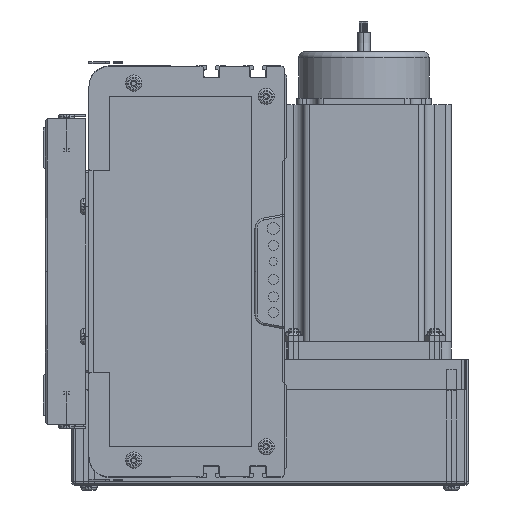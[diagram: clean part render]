
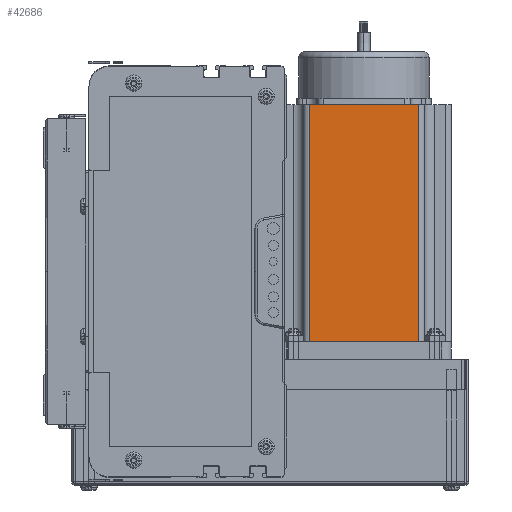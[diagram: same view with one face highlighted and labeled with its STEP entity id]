
A CAD part, left-side view. The second image highlights one B-rep face of the part: STEP entity #42686.
In plain terms, the highlighted planar face has unit normal (-1, 0, 0) as drawn and (0, -1, 0) by its records, which use the part's own axes.
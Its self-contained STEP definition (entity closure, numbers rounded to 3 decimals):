
#42644 = ORIENTED_EDGE ( 'NONE', *, *, #42688, .T. ) ;
#42647 = VERTEX_POINT ( 'NONE', #52527 ) ;
#42653 = VERTEX_POINT ( 'NONE', #52607 ) ;
#42686 = ADVANCED_FACE ( 'NONE', ( #52699 ), #52723, .F. ) ;
#42687 = EDGE_CURVE ( 'NONE', #42647, #42703, #52693, .T. ) ;
#42688 = EDGE_CURVE ( 'NONE', #42653, #42647, #52684, .T. ) ;
#42690 = ORIENTED_EDGE ( 'NONE', *, *, #42691, .F. ) ;
#42691 = EDGE_CURVE ( 'NONE', #42692, #42703, #52685, .T. ) ;
#42692 = VERTEX_POINT ( 'NONE', #52677 ) ;
#42694 = EDGE_CURVE ( 'NONE', #42692, #42653, #52771, .T. ) ;
#42703 = VERTEX_POINT ( 'NONE', #52860 ) ;
#42709 = ORIENTED_EDGE ( 'NONE', *, *, #42687, .T. ) ;
#42713 = ORIENTED_EDGE ( 'NONE', *, *, #42694, .T. ) ;
#42714 = EDGE_LOOP ( 'NONE', ( #42644, #42709, #42690, #42713 ) ) ;
#52527 = CARTESIAN_POINT ( 'NONE',  ( 69.74, 0., 0. ) ) ;
#52607 = CARTESIAN_POINT ( 'NONE',  ( 16.16, 0., 0. ) ) ;
#52677 = CARTESIAN_POINT ( 'NONE',  ( 16.16, 0., 116.5 ) ) ;
#52680 = DIRECTION ( 'NONE',  ( 0., 0., 1. ) ) ;
#52681 = DIRECTION ( 'NONE',  ( 0., 1., 0. ) ) ;
#52682 = CARTESIAN_POINT ( 'NONE',  ( 0., 0., 116.5 ) ) ;
#52684 = LINE ( 'NONE', #52794, #52793 ) ;
#52685 = LINE ( 'NONE', #52785, #52781 ) ;
#52689 = DIRECTION ( 'NONE',  ( 0., 0., 1. ) ) ;
#52690 = VECTOR ( 'NONE', #52689, 1000. ) ;
#52691 = CARTESIAN_POINT ( 'NONE',  ( 69.74, 0., 116.5 ) ) ;
#52693 = LINE ( 'NONE', #52691, #52690 ) ;
#52699 = FACE_OUTER_BOUND ( 'NONE', #42714, .T. ) ;
#52723 = PLANE ( 'NONE',  #52740 ) ;
#52740 = AXIS2_PLACEMENT_3D ( 'NONE', #52682, #52681, #52680 ) ;
#52767 = DIRECTION ( 'NONE',  ( 0., 0., -1. ) ) ;
#52769 = VECTOR ( 'NONE', #52767, 1000. ) ;
#52770 = CARTESIAN_POINT ( 'NONE',  ( 16.16, 0., 116.5 ) ) ;
#52771 = LINE ( 'NONE', #52770, #52769 ) ;
#52780 = DIRECTION ( 'NONE',  ( 1., 0., 0. ) ) ;
#52781 = VECTOR ( 'NONE', #52780, 1000. ) ;
#52785 = CARTESIAN_POINT ( 'NONE',  ( 0., 0., 116.5 ) ) ;
#52791 = DIRECTION ( 'NONE',  ( 1., 0., 0. ) ) ;
#52793 = VECTOR ( 'NONE', #52791, 1000. ) ;
#52794 = CARTESIAN_POINT ( 'NONE',  ( 0., 0., 0. ) ) ;
#52860 = CARTESIAN_POINT ( 'NONE',  ( 69.74, 0., 116.5 ) ) ;
